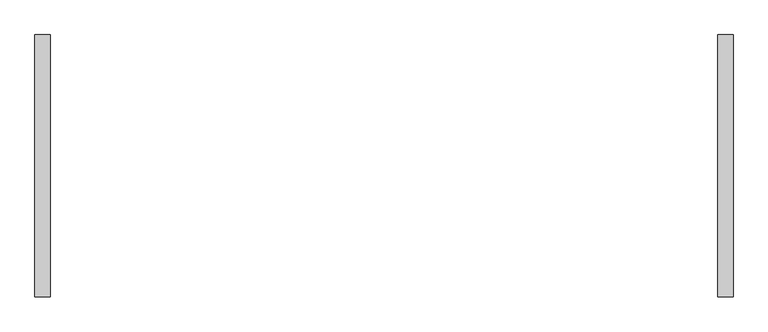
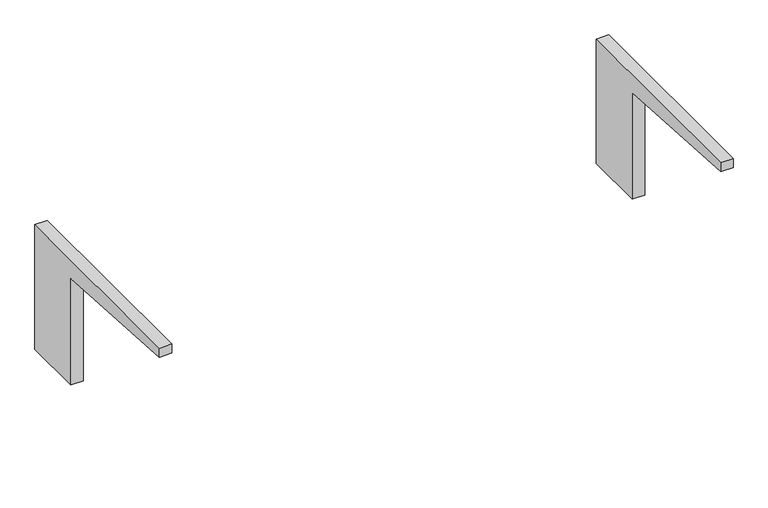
"""IFC4 building model written with IfcOpenShell, lengths in millimetres: furniture geometry, HermanMiller_CoStruc_C2140R_WorkSurfaceSupport_ComponentAdaptorReady : 14H x 24D x 60W."""

from ifc_helpers import new_model, si_unit, point, frame, frame_2d, origin, place, context, project, spatial, polyline, circle_curve, trimmed, segment, composite_curve, outline, extrude, source, transform, mapped, element, save


def furniture_dd3e20e4(model_context):
    return source(origin(), model_context, "Body", "SweptSolid", [
        extrude(outline(composite_curve([segment(polyline([(177.8, 882.65), (177.8, 533.4), (12.7, 533.4), (12.7, 831.85)]), True, "CONTINUOUS"), segment(trimmed(circle_curve(frame_2d((-388.143904, -2317.7524637)), 3175.0073252), [point((12.7, 831.85))], [point((-393.7, 857.25))], True, "CARTESIAN"), True, "CONTINUOUS"), segment(polyline([(-393.7, 857.25), (-393.7, 882.65), (177.8, 882.65)]), True, "CONTINUOUS")], self_intersect=False)), frame((727.075, 0.0, 0.0), z_axis=(1.0, 0.0, 0.0), x_axis=(0.0, 1.0, 0.0)), (0.0, 0.0, 1.0), 33.3375),
        extrude(outline(composite_curve([segment(polyline([(-393.7, 857.25), (-393.7, 882.65), (177.8, 882.65), (177.8, 533.4), (12.7, 533.4), (12.7, 831.85)]), True, "CONTINUOUS"), segment(trimmed(circle_curve(frame_2d((-388.143904, -2317.7524637)), 3175.0073252), [point((12.7, 831.85))], [point((-393.7, 857.25))], True, "CARTESIAN"), True, "CONTINUOUS")], self_intersect=False)), frame((-760.4125, 0.0, 0.0), z_axis=(1.0, 0.0, 0.0), x_axis=(0.0, 1.0, 0.0)), (0.0, 0.0, 1.0), 33.3375),
    ])


if __name__ == "__main__":
    model = new_model("IFC4")
    model_context = context("Model", 3, world=origin())
    ifc_project = project(units=[si_unit("LENGTHUNIT", "METRE", prefix="MILLI")], contexts=[model_context])
    site = spatial("IfcSite", under=ifc_project)
    building = spatial("IfcBuilding", under=site)
    placement = place(None, origin())
    furniture_shape = furniture_dd3e20e4(model_context)
    element("IfcFurniture", 1, ObjectType="HermanMiller_CoStruc_C2140R_WorkSurfaceSupport_ComponentAdaptorReady : 14H x 24D x 60W", at=placement, inside=building, context=model_context, shape_type="MappedRepresentation", body=[
        mapped(furniture_shape, transform((0.0, 0.0, 0.0), x_axis=(1.0, 0.0, 0.0), y_axis=(0.0, 1.0, 0.0), z_axis=(0.0, 0.0, 1.0))),
    ])
    save(model, "model.ifc")
